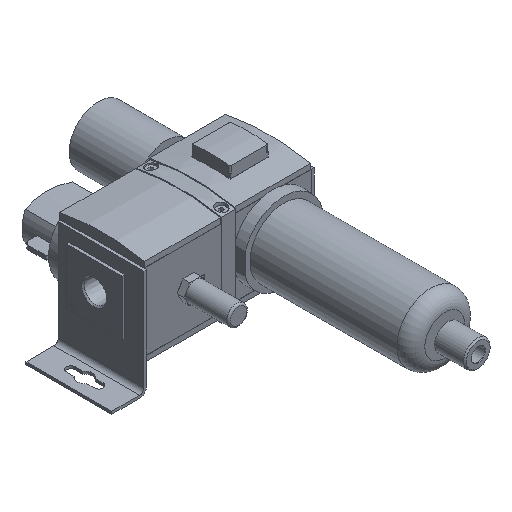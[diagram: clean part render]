
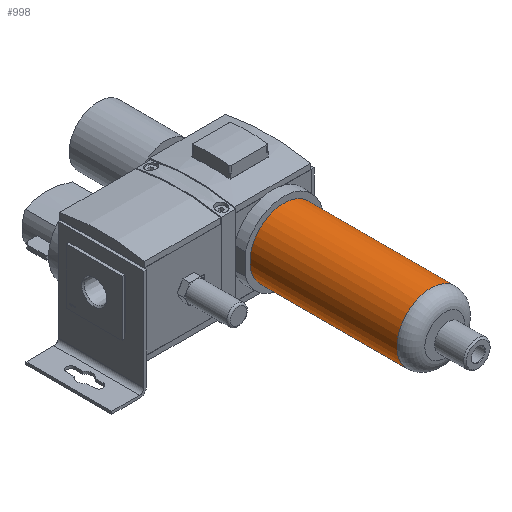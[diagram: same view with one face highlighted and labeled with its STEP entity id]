
A CAD part, isometric view. The second image highlights one B-rep face of the part: STEP entity #998.
In plain terms, the highlighted cylindrical face has radius 24.25 mm (diameter 48.5 mm), a full revolution.
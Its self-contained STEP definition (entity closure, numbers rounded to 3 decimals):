
#998 = ADVANCED_FACE( '', ( #2309, #2310 ), #2311, .T. );
#2309 = FACE_OUTER_BOUND( '', #4176, .T. );
#2310 = FACE_OUTER_BOUND( '', #4177, .T. );
#2311 = CYLINDRICAL_SURFACE( '', #4178, 24.25 );
#4176 = EDGE_LOOP( '', ( #6359 ) );
#4177 = EDGE_LOOP( '', ( #6360 ) );
#4178 = AXIS2_PLACEMENT_3D( '', #6361, #6362, #6363 );
#6359 = ORIENTED_EDGE( '', *, *, #11146, .F. );
#6360 = ORIENTED_EDGE( '', *, *, #11147, .T. );
#6361 = CARTESIAN_POINT( '', ( 0., -115.5, 0. ) );
#6362 = DIRECTION( '', ( 0., 1., 0. ) );
#6363 = DIRECTION( '', ( 0., 0., -1. ) );
#11146 = EDGE_CURVE( '', #13301, #13301, #13302, .T. );
#11147 = EDGE_CURVE( '', #13303, #13303, #13304, .T. );
#13301 = VERTEX_POINT( '', #16440 );
#13302 = CIRCLE( '', #16441, 24.25 );
#13303 = VERTEX_POINT( '', #16442 );
#13304 = CIRCLE( '', #16443, 24.25 );
#16440 = CARTESIAN_POINT( '', ( 0., -105.5, -24.25 ) );
#16441 = AXIS2_PLACEMENT_3D( '', #20242, #20243, #20244 );
#16442 = CARTESIAN_POINT( '', ( 0., 0., -24.25 ) );
#16443 = AXIS2_PLACEMENT_3D( '', #20245, #20246, #20247 );
#20242 = CARTESIAN_POINT( '', ( 0., -105.5, 0. ) );
#20243 = DIRECTION( '', ( 0., -1., 0. ) );
#20244 = DIRECTION( '', ( 0., 0., -1. ) );
#20245 = CARTESIAN_POINT( '', ( 0., 0., 0. ) );
#20246 = DIRECTION( '', ( 0., -1., 0. ) );
#20247 = DIRECTION( '', ( 0., 0., -1. ) );
